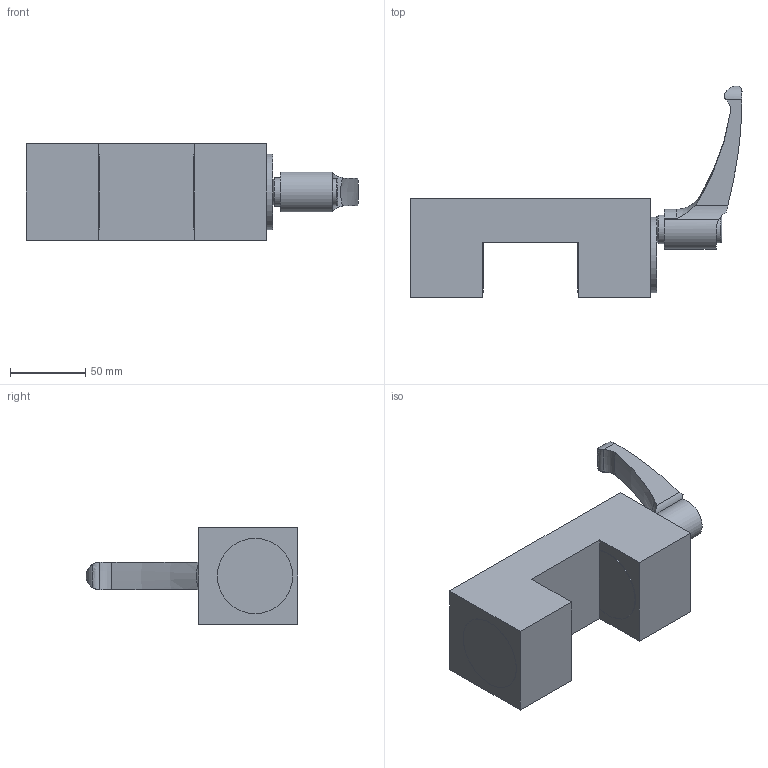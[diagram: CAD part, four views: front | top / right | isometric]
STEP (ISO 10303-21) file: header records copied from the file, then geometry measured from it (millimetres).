
FILE_DESCRIPTION(/* description */ ('STEP AP214'),/* implementation_level */ '2;1');
FILE_NAME(/* name */ 'HK6501A',/* time_stamp */ '2023-05-09T03:00:10+02:00',/* author */ ('License CC BY-ND 4.0'),/* organization */ ('CADENAS'),/* preprocessor_version */ 'ST-DEVELOPER v19.3',/* originating_system */ 'PARTsolutions',/* authorisation */ ' ');
FILE_SCHEMA (('AUTOMOTIVE_DESIGN {1 0 10303 214 3 1 1}'));
Length unit declared in the file: millimetre
Products named in the file (3): HK6501A; ELESA-Klemmhebel GN 604-95-M10-SG_NBK; ghkHK6501A97563
Assembly tree (2 placements, depth 2):
  HK6501A
    ELESA-Klemmhebel GN 604-95-M10-SG_NBK
    ghkHK6501A97563
Bounding box: 220.61 x 140.7 x 64 mm (x, y, z)
Volume: 560660.5 mm3; surface area: 64337.3 mm2
Topology: 2 solids, 2 shells, 65 faces, 163 edges, 107 vertices
Faces by surface type: plane 28, cylinder 18, cone 10, torus 9
Full cylindrical faces by diameter (mm): 8.376 x1, 13.835 x4, 19 x1, 50 x2
Entity records: 1936 total; most frequent: CARTESIAN_POINT 458, DIRECTION 278, ORIENTED_EDGE 270, EDGE_CURVE 135, AXIS2_PLACEMENT_3D 109, VERTEX_POINT 101, FACE_BOUND 92, EDGE_LOOP 88
